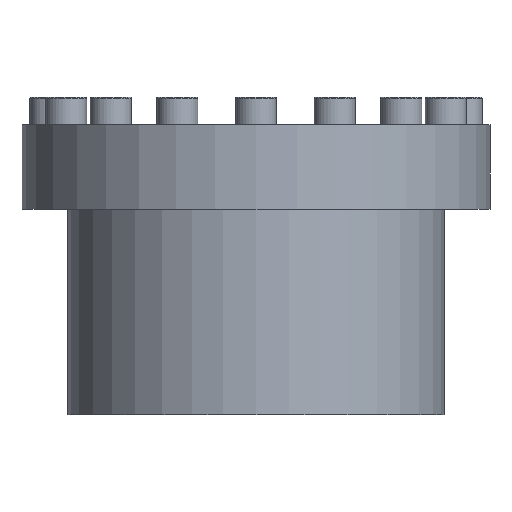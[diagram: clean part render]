
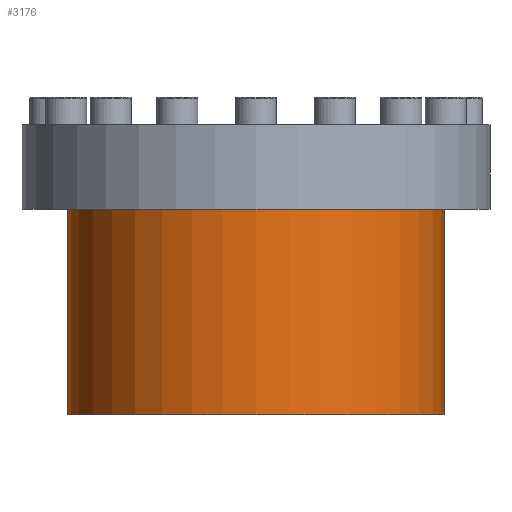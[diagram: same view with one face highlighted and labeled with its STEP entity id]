
A CAD part, front view. The second image highlights one B-rep face of the part: STEP entity #3176.
In plain terms, the highlighted cylindrical face has radius 82.4 mm (diameter 164.8 mm), a partial arc.
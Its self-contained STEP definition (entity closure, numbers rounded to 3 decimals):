
#163 = EDGE_LOOP ( 'NONE', ( #1131, #5412, #2689, #3293 ) ) ;
#178 = DIRECTION ( 'NONE',  ( 1., 0., 0. ) ) ;
#214 = DIRECTION ( 'NONE',  ( 0., 0., 1. ) ) ;
#527 = LINE ( 'NONE', #2501, #1765 ) ;
#577 = EDGE_CURVE ( 'NONE', #5270, #1676, #764, .T. ) ;
#618 = CARTESIAN_POINT ( 'NONE',  ( 82.4, 0., -127. ) ) ;
#623 = CARTESIAN_POINT ( 'NONE',  ( 0., 0., -127. ) ) ;
#727 = VERTEX_POINT ( 'NONE', #2201 ) ;
#764 = LINE ( 'NONE', #1413, #1376 ) ;
#1090 = CARTESIAN_POINT ( 'NONE',  ( 0., 0., -37. ) ) ;
#1131 = ORIENTED_EDGE ( 'NONE', *, *, #4180, .F. ) ;
#1153 = CIRCLE ( 'NONE', #2567, 82.4 ) ;
#1376 = VECTOR ( 'NONE', #1919, 1000. ) ;
#1407 = VERTEX_POINT ( 'NONE', #2049 ) ;
#1413 = CARTESIAN_POINT ( 'NONE',  ( 82.4, 0., 0. ) ) ;
#1606 = CARTESIAN_POINT ( 'NONE',  ( 82.4, 0., -37. ) ) ;
#1676 = VERTEX_POINT ( 'NONE', #1606 ) ;
#1765 = VECTOR ( 'NONE', #3840, 1000. ) ;
#1919 = DIRECTION ( 'NONE',  ( 0., 0., 1. ) ) ;
#2049 = CARTESIAN_POINT ( 'NONE',  ( -82.4, 0., -127. ) ) ;
#2201 = CARTESIAN_POINT ( 'NONE',  ( -82.4, 0., -37. ) ) ;
#2451 = CARTESIAN_POINT ( 'NONE',  ( 0., 0., 0. ) ) ;
#2501 = CARTESIAN_POINT ( 'NONE',  ( -82.4, 0., 0. ) ) ;
#2567 = AXIS2_PLACEMENT_3D ( 'NONE', #623, #4569, #3336 ) ;
#2600 = CIRCLE ( 'NONE', #5189, 82.4 ) ;
#2689 = ORIENTED_EDGE ( 'NONE', *, *, #577, .T. ) ;
#2854 = AXIS2_PLACEMENT_3D ( 'NONE', #2451, #214, #2864 ) ;
#2864 = DIRECTION ( 'NONE',  ( 1., 0., 0. ) ) ;
#3176 = ADVANCED_FACE ( 'NONE', ( #3454 ), #4965, .T. ) ;
#3293 = ORIENTED_EDGE ( 'NONE', *, *, #5253, .F. ) ;
#3336 = DIRECTION ( 'NONE',  ( 1., 0., 0. ) ) ;
#3454 = FACE_OUTER_BOUND ( 'NONE', #163, .T. ) ;
#3774 = EDGE_CURVE ( 'NONE', #1407, #5270, #1153, .T. ) ;
#3840 = DIRECTION ( 'NONE',  ( 0., 0., 1. ) ) ;
#4180 = EDGE_CURVE ( 'NONE', #1407, #727, #527, .T. ) ;
#4569 = DIRECTION ( 'NONE',  ( 0., 0., 1. ) ) ;
#4965 = CYLINDRICAL_SURFACE ( 'NONE', #2854, 82.4 ) ;
#5050 = DIRECTION ( 'NONE',  ( 0., 0., 1. ) ) ;
#5189 = AXIS2_PLACEMENT_3D ( 'NONE', #1090, #5050, #178 ) ;
#5253 = EDGE_CURVE ( 'NONE', #727, #1676, #2600, .T. ) ;
#5270 = VERTEX_POINT ( 'NONE', #618 ) ;
#5412 = ORIENTED_EDGE ( 'NONE', *, *, #3774, .T. ) ;
